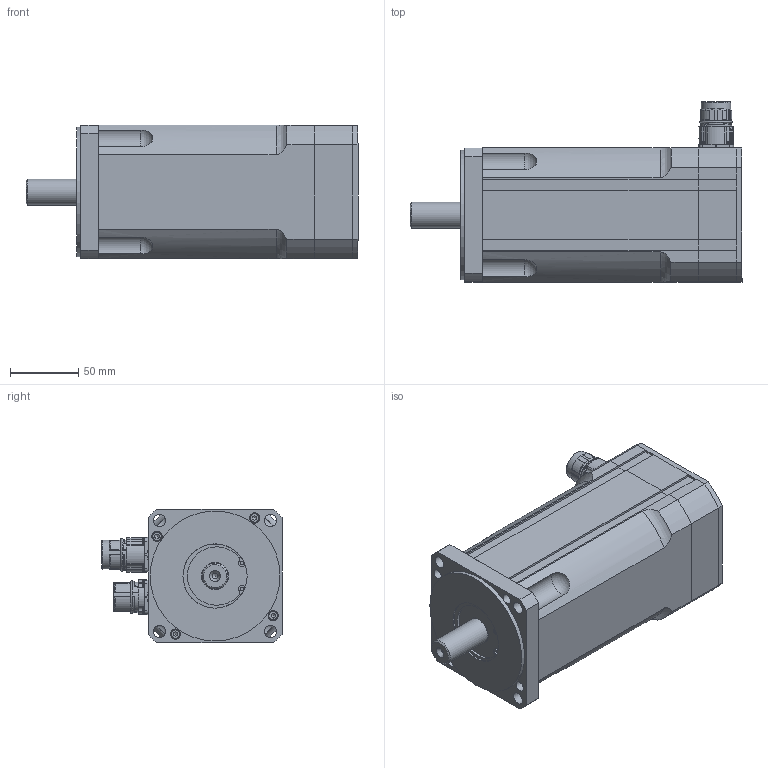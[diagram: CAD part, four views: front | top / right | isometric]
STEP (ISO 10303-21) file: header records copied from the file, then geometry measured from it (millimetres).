
FILE_DESCRIPTION(/* description */ (''),/* implementation_level */ '2;1');
FILE_NAME(/* name */ 'V:\4\N4083 00\3D Z\N4083 00 Z_1130_8P_12P.stp',/* time_stamp */ '2017-06-28T10:12:00+02:00',/* author */ ('simik'),/* organization */ (''),/* preprocessor_version */ 'ST-DEVELOPER v16.13',/* originating_system */ 'Autodesk Inventor 2018',/* authorisation */ '');
FILE_SCHEMA (('AUTOMOTIVE_DESIGN { 1 0 10303 214 3 1 1 }'));
Products named in the file (5): N4083 00 Z; N4083 00 Z_front; N4083 00 Z_1130; 127331; 127344
Assembly tree (4 placements, depth 2):
  N4083 00 Z
    N4083 00 Z_front
    N4083 00 Z_1130
    127331
    127344
Bounding box: 243 x 131.79 x 98.04 mm (x, y, z)
Volume: 708418.7 mm3; surface area: 195437.5 mm2
Topology: 4 solids, 4 shells, 1698 faces, 4146 edges, 2548 vertices
Faces by surface type: cylinder 740, plane 494, bspline 164, torus 137, cone 120, sphere 43
Full cylindrical faces by diameter (mm): 1 x16, 1.18 x12, 1.3 x4, 2 x4, 2.013 x2, 2.15 x4, 2.208 x8, 2.4 x8, 2.459 x4, 2.5 x10, 2.7 x8, 3 x4, 3.242 x4, 3.95 x4, 4 x4, 4.134 x1, 4.3 x4, 5 x8, 5.8 x1, 6.8 x1, 7 x4, 7.5 x4, 8 x4, 8.5 x4, 9 x4, 16 x1, 17.1 x1, 17.4 x1, 17.7 x1, 19 x1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
Entity records: 58066 total; most frequent: CARTESIAN_POINT 18389, DIRECTION 8150, ORIENTED_EDGE 7586, EDGE_CURVE 3719, AXIS2_PLACEMENT_3D 3454, VERTEX_POINT 2405, EDGE_LOOP 2102, CIRCLE 1772
